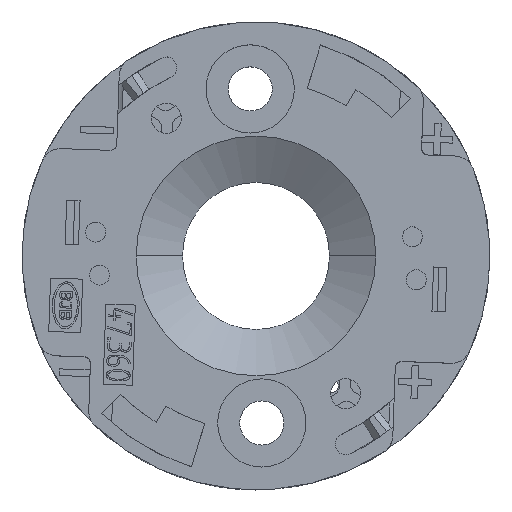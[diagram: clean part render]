
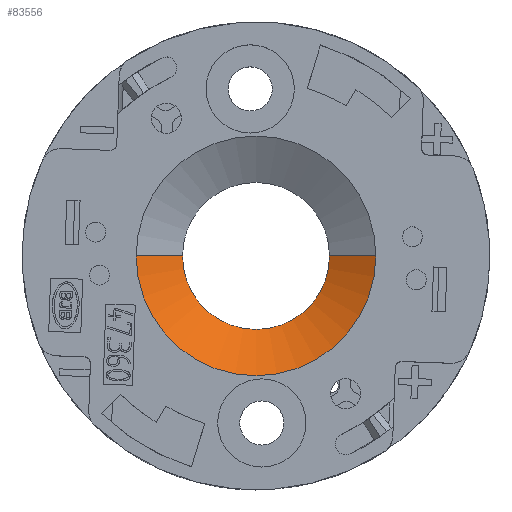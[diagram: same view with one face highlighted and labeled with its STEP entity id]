
A CAD part, top view. The second image highlights one B-rep face of the part: STEP entity #83556.
In plain terms, the highlighted free-form (B-spline) face has degree [6, 1] with [7, 2] control points.
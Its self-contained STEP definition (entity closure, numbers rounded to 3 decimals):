
#71336=CARTESIAN_POINT(' ',(0.,0.,3.));
#71341=DIRECTION(' ',(0.,0.,-1.));
#71346=DIRECTION(' ',(1.,0.,0.));
#71351=AXIS2_PLACEMENT_3D(' ',#71336,#71341,#71346);
#71356=CIRCLE('',#71351,8.964);
#71361=CARTESIAN_POINT(' ',(8.964,0.,3.));
#71362=VERTEX_POINT(' ',#71361);
#71366=CARTESIAN_POINT(' ',(-8.964,0.,3.));
#71367=VERTEX_POINT(' ',#71366);
#71371=EDGE_CURVE(' ',#71362,#71367,#71356,.T.);
#83361=CARTESIAN_POINT(' ',(-8.964,0.,3.));
#83366=CARTESIAN_POINT(' ',(-5.5,0.,1.));
#83371=CARTESIAN_POINT(' ',(-8.964,-4.694,3.));
#83376=CARTESIAN_POINT(' ',(-5.5,-2.88,1.));
#83381=CARTESIAN_POINT(' ',(-6.047,-9.381,3.));
#83386=CARTESIAN_POINT(' ',(-3.71,-5.756,1.));
#83391=CARTESIAN_POINT(' ',(0.,-11.798,3.));
#83396=CARTESIAN_POINT(' ',(0.,-7.239,1.));
#83401=CARTESIAN_POINT(' ',(6.047,-9.381,3.));
#83406=CARTESIAN_POINT(' ',(3.71,-5.756,1.));
#83411=CARTESIAN_POINT(' ',(8.964,-4.694,3.));
#83416=CARTESIAN_POINT(' ',(5.5,-2.88,1.));
#83421=CARTESIAN_POINT(' ',(8.964,0.,3.));
#83426=CARTESIAN_POINT(' ',(5.5,0.,1.));
#83431=B_SPLINE_SURFACE_WITH_KNOTS(' ',6,1,((#83361,#83366),(#83371,#83376),(#83381,#83386),(#83391,#83396),(#83401,#83406),(#83411,#83416),(#83421,#83426)),.UNSPECIFIED.,.F.,.F.,.U.,(7,7),(2,2),(0.,1.),(0.,1.),.UNSPECIFIED.);
#83436=CARTESIAN_POINT(' ',(-8.964,0.,3.));
#83441=DIRECTION(' ',(0.866,0.,-0.5));
#83446=VECTOR(' ',#83441,1.);
#83451=LINE('',#83436,#83446);
#83456=CARTESIAN_POINT(' ',(-5.5,0.,1.));
#83457=VERTEX_POINT(' ',#83456);
#83461=EDGE_CURVE(' ',#71367,#83457,#83451,.T.);
#83466=ORIENTED_EDGE(' ',*,*,#83461,.F.);
#83471=ORIENTED_EDGE(' ',*,*,#71371,.F.);
#83476=CARTESIAN_POINT(' ',(5.5,0.,1.));
#83481=DIRECTION(' ',(0.866,0.,0.5));
#83486=VECTOR(' ',#83481,1.);
#83491=LINE('',#83476,#83486);
#83496=CARTESIAN_POINT(' ',(5.5,0.,1.));
#83497=VERTEX_POINT(' ',#83496);
#83501=EDGE_CURVE(' ',#83497,#71362,#83491,.T.);
#83506=ORIENTED_EDGE(' ',*,*,#83501,.F.);
#83511=CARTESIAN_POINT(' ',(0.,0.,1.));
#83516=DIRECTION(' ',(0.,0.,-1.));
#83521=DIRECTION(' ',(1.,0.,0.));
#83526=AXIS2_PLACEMENT_3D(' ',#83511,#83516,#83521);
#83531=CIRCLE('',#83526,5.5);
#83536=EDGE_CURVE(' ',#83497,#83457,#83531,.T.);
#83541=ORIENTED_EDGE(' ',*,*,#83536,.T.);
#83546=EDGE_LOOP(' ',(#83466,#83471,#83506,#83541));
#83551=FACE_OUTER_BOUND(' ',#83546,.T.);
#83556=ADVANCED_FACE('',(#83551),#83431,.T.);
